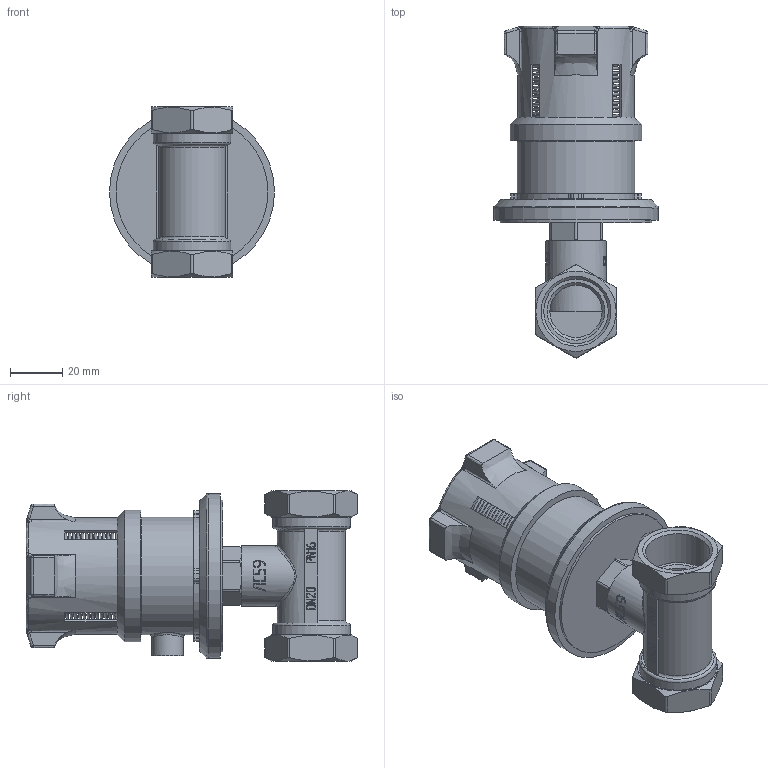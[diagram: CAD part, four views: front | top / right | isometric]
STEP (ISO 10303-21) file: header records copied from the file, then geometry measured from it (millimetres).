
FILE_DESCRIPTION(('STEP AP242'), '1');
FILE_NAME('VBA0000E-T Êëàïàí áàëàíñèðîâî÷íûé àâòîìàòè÷åñêèé DN.ru Äó20 Ðó16', '', ('UNSPECIFIED'), ('UNSPECIFIED'), 'C3D Converter', 'C3D Toolkit', '');
FILE_SCHEMA(('AP242_MANAGED_MODEL_BASED_3D_ENGINEERING_MIM_LF { 1 0 10303 442 1 1 4 }'));
Length unit declared in the file: millimetre
Products named in the file (1): VBA0000E-T
Bounding box: 63 x 126.74 x 65 mm (x, y, z)
Volume: 577.8 mm3; surface area: 49996 mm2
Topology: 1 solids, 2 shells, 690 faces, 1850 edges, 1193 vertices
Faces by surface type: plane 250, bspline 175, extrusion 171, cylinder 70, cone 17, torus 7
Full cylindrical faces by diameter (mm): 3 x1, 8.566 x1, 12 x1, 15.381 x2, 20 x2, 23 x1, 24.66 x2, 29.66 x2, 45 x1, 50.18 x1, 58 x1, 63 x1
Entity records: 46193 total; most frequent: CARTESIAN_POINT 25600, ORIENTED_EDGE 3580, DIRECTION 2189, EDGE_CURVE 1790, VERTEX_POINT 1178, VECTOR 929, B_SPLINE_CURVE_WITH_KNOTS 793, EDGE_LOOP 780
